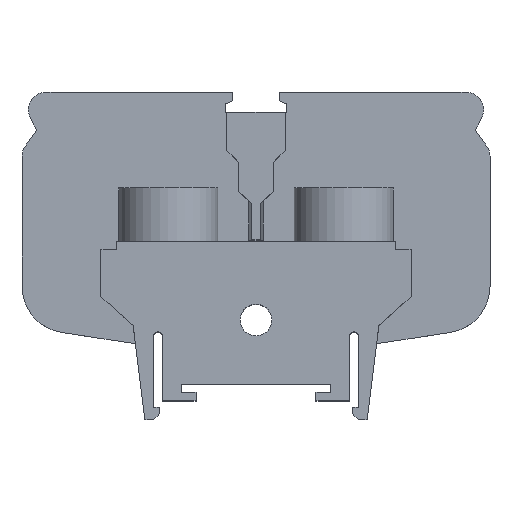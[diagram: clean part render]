
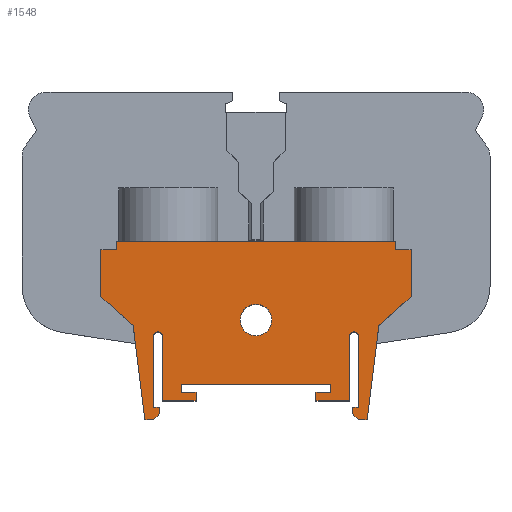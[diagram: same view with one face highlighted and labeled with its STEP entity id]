
A CAD part, top view. The second image highlights one B-rep face of the part: STEP entity #1548.
In plain terms, the highlighted planar face has unit normal (0, 0, 1).
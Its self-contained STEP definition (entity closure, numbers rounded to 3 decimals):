
#18=FACE_BOUND('',#205,.T.);
#50=PLANE('',#1669);
#122=FACE_OUTER_BOUND('',#204,.T.);
#204=EDGE_LOOP('',(#1279,#1280,#1281,#1282,#1283,#1284,#1285,#1286,#1287,
#1288,#1289,#1290,#1291,#1292,#1293,#1294,#1295,#1296,#1297,#1298,#1299,
#1300,#1301,#1302,#1303,#1304,#1305,#1306,#1307,#1308,#1309,#1310,#1311,
#1312));
#205=EDGE_LOOP('',(#1313));
#251=LINE('',#2141,#454);
#255=LINE('',#2149,#458);
#258=LINE('',#2155,#461);
#298=LINE('',#2248,#501);
#303=LINE('',#2259,#506);
#306=LINE('',#2266,#509);
#312=LINE('',#2279,#515);
#315=LINE('',#2285,#518);
#317=LINE('',#2289,#520);
#358=LINE('',#2385,#561);
#362=LINE('',#2392,#565);
#382=LINE('',#2431,#585);
#386=LINE('',#2438,#589);
#388=LINE('',#2441,#591);
#390=LINE('',#2446,#593);
#393=LINE('',#2451,#596);
#395=LINE('',#2455,#598);
#396=LINE('',#2457,#599);
#398=LINE('',#2461,#601);
#399=LINE('',#2464,#602);
#400=LINE('',#2465,#603);
#401=LINE('',#2467,#604);
#402=LINE('',#2468,#605);
#403=LINE('',#2470,#606);
#404=LINE('',#2472,#607);
#405=LINE('',#2474,#608);
#406=LINE('',#2475,#609);
#407=LINE('',#2478,#610);
#408=LINE('',#2480,#611);
#409=LINE('',#2481,#612);
#410=LINE('',#2483,#613);
#411=LINE('',#2484,#614);
#454=VECTOR('',#1738,10.);
#458=VECTOR('',#1744,10.);
#461=VECTOR('',#1749,10.);
#501=VECTOR('',#1805,10.);
#506=VECTOR('',#1812,10.);
#509=VECTOR('',#1817,10.);
#515=VECTOR('',#1825,10.);
#518=VECTOR('',#1830,10.);
#520=VECTOR('',#1834,10.);
#561=VECTOR('',#1899,10.);
#565=VECTOR('',#1907,10.);
#585=VECTOR('',#1945,10.);
#589=VECTOR('',#1951,10.);
#591=VECTOR('',#1955,10.);
#593=VECTOR('',#1959,10.);
#596=VECTOR('',#1964,10.);
#598=VECTOR('',#1968,10.);
#599=VECTOR('',#1971,10.);
#601=VECTOR('',#1975,10.);
#602=VECTOR('',#1978,10.);
#603=VECTOR('',#1979,10.);
#604=VECTOR('',#1980,10.);
#605=VECTOR('',#1981,10.);
#606=VECTOR('',#1982,10.);
#607=VECTOR('',#1983,10.);
#608=VECTOR('',#1986,10.);
#609=VECTOR('',#1987,10.);
#610=VECTOR('',#1990,10.);
#611=VECTOR('',#1991,10.);
#612=VECTOR('',#1992,10.);
#613=VECTOR('',#1993,10.);
#614=VECTOR('',#1994,10.);
#674=CIRCLE('',#1670,0.75);
#675=CIRCLE('',#1671,0.75);
#676=CIRCLE('',#1672,2.7);
#681=VERTEX_POINT('',#2139);
#682=VERTEX_POINT('',#2140);
#685=VERTEX_POINT('',#2148);
#687=VERTEX_POINT('',#2154);
#731=VERTEX_POINT('',#2246);
#732=VERTEX_POINT('',#2247);
#735=VERTEX_POINT('',#2255);
#737=VERTEX_POINT('',#2258);
#739=VERTEX_POINT('',#2264);
#740=VERTEX_POINT('',#2265);
#745=VERTEX_POINT('',#2276);
#746=VERTEX_POINT('',#2278);
#747=VERTEX_POINT('',#2282);
#748=VERTEX_POINT('',#2284);
#749=VERTEX_POINT('',#2288);
#791=VERTEX_POINT('',#2382);
#792=VERTEX_POINT('',#2384);
#793=VERTEX_POINT('',#2391);
#802=VERTEX_POINT('',#2429);
#803=VERTEX_POINT('',#2430);
#804=VERTEX_POINT('',#2435);
#805=VERTEX_POINT('',#2437);
#806=VERTEX_POINT('',#2443);
#807=VERTEX_POINT('',#2445);
#808=VERTEX_POINT('',#2449);
#809=VERTEX_POINT('',#2453);
#810=VERTEX_POINT('',#2459);
#811=VERTEX_POINT('',#2463);
#812=VERTEX_POINT('',#2466);
#813=VERTEX_POINT('',#2469);
#814=VERTEX_POINT('',#2471);
#815=VERTEX_POINT('',#2477);
#816=VERTEX_POINT('',#2479);
#817=VERTEX_POINT('',#2482);
#818=VERTEX_POINT('',#2485);
#833=EDGE_CURVE('',#681,#682,#251,.T.);
#837=EDGE_CURVE('',#682,#685,#255,.T.);
#840=EDGE_CURVE('',#685,#687,#258,.T.);
#886=EDGE_CURVE('',#731,#732,#298,.T.);
#891=EDGE_CURVE('',#737,#735,#303,.T.);
#894=EDGE_CURVE('',#739,#740,#306,.T.);
#900=EDGE_CURVE('',#746,#745,#312,.T.);
#903=EDGE_CURVE('',#748,#747,#315,.T.);
#905=EDGE_CURVE('',#747,#749,#317,.T.);
#955=EDGE_CURVE('',#792,#791,#358,.T.);
#959=EDGE_CURVE('',#793,#792,#362,.T.);
#979=EDGE_CURVE('',#802,#803,#382,.T.);
#983=EDGE_CURVE('',#805,#804,#386,.T.);
#985=EDGE_CURVE('',#804,#746,#388,.T.);
#987=EDGE_CURVE('',#807,#806,#390,.T.);
#990=EDGE_CURVE('',#806,#808,#393,.T.);
#992=EDGE_CURVE('',#808,#809,#395,.T.);
#993=EDGE_CURVE('',#809,#805,#396,.T.);
#995=EDGE_CURVE('',#735,#810,#398,.T.);
#996=EDGE_CURVE('',#811,#681,#399,.T.);
#997=EDGE_CURVE('',#748,#811,#400,.T.);
#998=EDGE_CURVE('',#812,#749,#401,.T.);
#999=EDGE_CURVE('',#732,#812,#402,.T.);
#1000=EDGE_CURVE('',#731,#813,#403,.T.);
#1001=EDGE_CURVE('',#814,#813,#404,.T.);
#1002=EDGE_CURVE('',#740,#814,#674,.T.);
#1003=EDGE_CURVE('',#739,#803,#405,.T.);
#1004=EDGE_CURVE('',#802,#807,#406,.T.);
#1005=EDGE_CURVE('',#745,#737,#675,.T.);
#1006=EDGE_CURVE('',#810,#815,#407,.T.);
#1007=EDGE_CURVE('',#815,#816,#408,.T.);
#1008=EDGE_CURVE('',#816,#793,#409,.T.);
#1009=EDGE_CURVE('',#791,#817,#410,.T.);
#1010=EDGE_CURVE('',#817,#687,#411,.T.);
#1011=EDGE_CURVE('',#818,#818,#676,.T.);
#1279=ORIENTED_EDGE('',*,*,#996,.F.);
#1280=ORIENTED_EDGE('',*,*,#997,.F.);
#1281=ORIENTED_EDGE('',*,*,#903,.T.);
#1282=ORIENTED_EDGE('',*,*,#905,.T.);
#1283=ORIENTED_EDGE('',*,*,#998,.F.);
#1284=ORIENTED_EDGE('',*,*,#999,.F.);
#1285=ORIENTED_EDGE('',*,*,#886,.F.);
#1286=ORIENTED_EDGE('',*,*,#1000,.T.);
#1287=ORIENTED_EDGE('',*,*,#1001,.F.);
#1288=ORIENTED_EDGE('',*,*,#1002,.F.);
#1289=ORIENTED_EDGE('',*,*,#894,.F.);
#1290=ORIENTED_EDGE('',*,*,#1003,.T.);
#1291=ORIENTED_EDGE('',*,*,#979,.F.);
#1292=ORIENTED_EDGE('',*,*,#1004,.T.);
#1293=ORIENTED_EDGE('',*,*,#987,.T.);
#1294=ORIENTED_EDGE('',*,*,#990,.T.);
#1295=ORIENTED_EDGE('',*,*,#992,.T.);
#1296=ORIENTED_EDGE('',*,*,#993,.T.);
#1297=ORIENTED_EDGE('',*,*,#983,.T.);
#1298=ORIENTED_EDGE('',*,*,#985,.T.);
#1299=ORIENTED_EDGE('',*,*,#900,.T.);
#1300=ORIENTED_EDGE('',*,*,#1005,.T.);
#1301=ORIENTED_EDGE('',*,*,#891,.T.);
#1302=ORIENTED_EDGE('',*,*,#995,.T.);
#1303=ORIENTED_EDGE('',*,*,#1006,.T.);
#1304=ORIENTED_EDGE('',*,*,#1007,.T.);
#1305=ORIENTED_EDGE('',*,*,#1008,.T.);
#1306=ORIENTED_EDGE('',*,*,#959,.T.);
#1307=ORIENTED_EDGE('',*,*,#955,.T.);
#1308=ORIENTED_EDGE('',*,*,#1009,.T.);
#1309=ORIENTED_EDGE('',*,*,#1010,.T.);
#1310=ORIENTED_EDGE('',*,*,#840,.F.);
#1311=ORIENTED_EDGE('',*,*,#837,.F.);
#1312=ORIENTED_EDGE('',*,*,#833,.F.);
#1313=ORIENTED_EDGE('',*,*,#1011,.F.);
#1548=ADVANCED_FACE('',(#122,#18),#50,.T.);
#1669=AXIS2_PLACEMENT_3D('',#2462,#1976,#1977);
#1670=AXIS2_PLACEMENT_3D('',#2473,#1984,#1985);
#1671=AXIS2_PLACEMENT_3D('',#2476,#1988,#1989);
#1672=AXIS2_PLACEMENT_3D('',#2486,#1995,#1996);
#1738=DIRECTION('',(0.,1.,0.));
#1744=DIRECTION('',(1.,0.,0.));
#1749=DIRECTION('',(0.,-1.,0.));
#1805=DIRECTION('',(0.,-1.,0.));
#1812=DIRECTION('',(0.,-1.,0.));
#1817=DIRECTION('',(0.,1.,0.));
#1825=DIRECTION('',(0.,1.,0.));
#1830=DIRECTION('',(0.74,-0.673,0.));
#1834=DIRECTION('',(0.124,-0.992,0.));
#1899=DIRECTION('',(0.74,0.673,0.));
#1907=DIRECTION('',(0.124,0.992,0.));
#1945=DIRECTION('',(0.,-1.,0.));
#1951=DIRECTION('',(0.,-1.,0.));
#1955=DIRECTION('',(1.,0.,0.));
#1959=DIRECTION('',(0.,1.,0.));
#1964=DIRECTION('',(1.,0.,0.));
#1968=DIRECTION('',(0.,-1.,0.));
#1971=DIRECTION('',(-1.,0.,0.));
#1975=DIRECTION('',(-1.,0.,0.));
#1976=DIRECTION('center_axis',(0.,0.,1.));
#1977=DIRECTION('ref_axis',(1.,0.,0.));
#1978=DIRECTION('',(1.,0.,0.));
#1979=DIRECTION('',(0.,1.,0.));
#1980=DIRECTION('',(-1.,0.,0.));
#1981=DIRECTION('',(-0.707,-0.707,0.));
#1982=DIRECTION('',(-1.,0.,0.));
#1983=DIRECTION('',(0.,-1.,0.));
#1984=DIRECTION('center_axis',(0.,0.,1.));
#1985=DIRECTION('ref_axis',(-1.,0.,0.));
#1986=DIRECTION('',(1.,0.,0.));
#1987=DIRECTION('',(-1.,0.,0.));
#1988=DIRECTION('center_axis',(0.,0.,-1.));
#1989=DIRECTION('ref_axis',(1.,0.,0.));
#1990=DIRECTION('',(0.,-1.,0.));
#1991=DIRECTION('',(0.707,-0.707,0.));
#1992=DIRECTION('',(1.,0.,0.));
#1993=DIRECTION('',(0.,1.,0.));
#1994=DIRECTION('',(-1.,0.,0.));
#1995=DIRECTION('center_axis',(0.,0.,1.));
#1996=DIRECTION('ref_axis',(0.,-1.,0.));
#2139=CARTESIAN_POINT('',(-23.9,12.,13.5));
#2140=CARTESIAN_POINT('',(-23.9,13.5,13.5));
#2141=CARTESIAN_POINT('',(-23.9,12.625,13.5));
#2148=CARTESIAN_POINT('',(23.9,13.5,13.5));
#2149=CARTESIAN_POINT('',(11.95,13.5,13.5));
#2154=CARTESIAN_POINT('',(23.9,12.,13.5));
#2155=CARTESIAN_POINT('',(23.9,11.875,13.5));
#2246=CARTESIAN_POINT('',(-16.5,-14.9,13.5));
#2247=CARTESIAN_POINT('',(-16.5,-16.,13.5));
#2248=CARTESIAN_POINT('',(-16.5,-16.,13.5));
#2255=CARTESIAN_POINT('',(17.5,-14.9,13.5));
#2258=CARTESIAN_POINT('',(17.5,-2.75,13.5));
#2259=CARTESIAN_POINT('',(17.5,-14.9,13.5));
#2264=CARTESIAN_POINT('',(-16.,-13.8,13.5));
#2265=CARTESIAN_POINT('',(-16.,-2.75,13.5));
#2266=CARTESIAN_POINT('',(-16.,-2.75,13.5));
#2276=CARTESIAN_POINT('',(16.,-2.75,13.5));
#2278=CARTESIAN_POINT('',(16.,-13.8,13.5));
#2279=CARTESIAN_POINT('',(16.,-2.75,13.5));
#2282=CARTESIAN_POINT('',(-21.,-1.,13.5));
#2284=CARTESIAN_POINT('',(-26.5,4.,13.5));
#2285=CARTESIAN_POINT('',(-18.566,-3.213,13.5));
#2288=CARTESIAN_POINT('',(-19.,-17.,13.5));
#2289=CARTESIAN_POINT('',(-20.666,-3.669,13.5));
#2382=CARTESIAN_POINT('',(26.5,4.,13.5));
#2384=CARTESIAN_POINT('',(21.,-1.,13.5));
#2385=CARTESIAN_POINT('',(11.227,-9.885,13.5));
#2391=CARTESIAN_POINT('',(19.,-17.,13.5));
#2392=CARTESIAN_POINT('',(20.46,-5.319,13.5));
#2429=CARTESIAN_POINT('',(-10.25,-12.3,13.5));
#2430=CARTESIAN_POINT('',(-10.25,-13.8,13.5));
#2431=CARTESIAN_POINT('',(-10.25,-13.8,13.5));
#2435=CARTESIAN_POINT('',(10.25,-13.8,13.5));
#2437=CARTESIAN_POINT('',(10.25,-12.3,13.5));
#2438=CARTESIAN_POINT('',(10.25,-13.8,13.5));
#2441=CARTESIAN_POINT('',(10.25,-13.8,13.5));
#2443=CARTESIAN_POINT('',(-12.75,-11.,13.5));
#2445=CARTESIAN_POINT('',(-12.75,-12.3,13.5));
#2446=CARTESIAN_POINT('',(-12.75,-12.3,13.5));
#2449=CARTESIAN_POINT('',(12.75,-11.,13.5));
#2451=CARTESIAN_POINT('',(-12.75,-11.,13.5));
#2453=CARTESIAN_POINT('',(12.75,-12.3,13.5));
#2455=CARTESIAN_POINT('',(12.75,-11.,13.5));
#2457=CARTESIAN_POINT('',(12.75,-12.3,13.5));
#2459=CARTESIAN_POINT('',(16.5,-14.9,13.5));
#2461=CARTESIAN_POINT('',(17.5,-14.9,13.5));
#2462=CARTESIAN_POINT('Origin',(-13.404,-2.425,13.5));
#2463=CARTESIAN_POINT('',(-26.5,12.,13.5));
#2464=CARTESIAN_POINT('',(-11.95,12.,13.5));
#2465=CARTESIAN_POINT('',(-26.5,12.,13.5));
#2466=CARTESIAN_POINT('',(-17.5,-17.,13.5));
#2467=CARTESIAN_POINT('',(-19.,-17.,13.5));
#2468=CARTESIAN_POINT('',(-17.5,-17.,13.5));
#2469=CARTESIAN_POINT('',(-17.5,-14.9,13.5));
#2470=CARTESIAN_POINT('',(-16.5,-14.9,13.5));
#2471=CARTESIAN_POINT('',(-17.5,-2.75,13.5));
#2472=CARTESIAN_POINT('',(-17.5,-8.663,13.5));
#2473=CARTESIAN_POINT('Origin',(-16.75,-2.75,13.5));
#2474=CARTESIAN_POINT('',(-16.,-13.8,13.5));
#2475=CARTESIAN_POINT('',(-10.25,-12.3,13.5));
#2476=CARTESIAN_POINT('Origin',(16.75,-2.75,13.5));
#2477=CARTESIAN_POINT('',(16.5,-16.,13.5));
#2478=CARTESIAN_POINT('',(16.5,-16.,13.5));
#2479=CARTESIAN_POINT('',(17.5,-17.,13.5));
#2480=CARTESIAN_POINT('',(17.5,-17.,13.5));
#2481=CARTESIAN_POINT('',(19.,-17.,13.5));
#2482=CARTESIAN_POINT('',(26.5,12.,13.5));
#2483=CARTESIAN_POINT('',(26.5,12.,13.5));
#2484=CARTESIAN_POINT('',(24.,12.,13.5));
#2485=CARTESIAN_POINT('',(0.,2.7,13.5));
#2486=CARTESIAN_POINT('Origin',(0.,0.,13.5));
